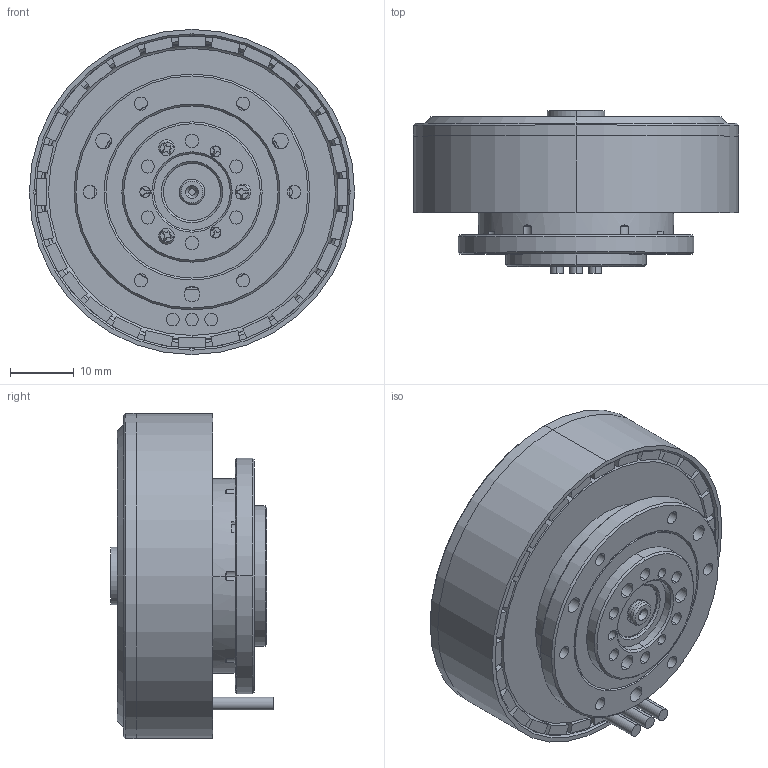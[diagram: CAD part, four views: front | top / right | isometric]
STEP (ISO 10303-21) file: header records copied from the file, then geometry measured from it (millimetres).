
FILE_DESCRIPTION (( 'STEP AP203' ), '1' );
FILE_NAME ('AKE40-6-KV90-A.STEP', '2026-08-28T06:10:32', ( '微软用户' ), ( '微软中国' ), 'SwSTEP 2.0', 'SolidWorks 2020', '' );
FILE_SCHEMA (( 'CONFIG_CONTROL_DESIGN' ));
Length unit declared in the file: millimetre
Products named in the file (1): AKE40-6-KV90-A
Bounding box: 51 x 25.5 x 51 mm (x, y, z)
Surface area: 19124.7 mm2 (no closed solid volume)
Topology: 0 solids, 49 shells, 510 faces, 1473 edges, 1007 vertices
Faces by surface type: plane 265, cylinder 195, cone 46, torus 4
Entity records: 16840 total; most frequent: CARTESIAN_POINT 3079, DIRECTION 3029, ORIENTED_EDGE 2526, EDGE_CURVE 1473, AXIS2_PLACEMENT_3D 1063, VERTEX_POINT 1007, LINE 903, VECTOR 903
